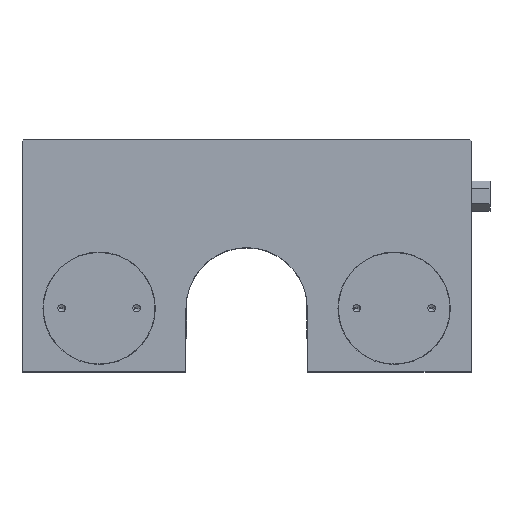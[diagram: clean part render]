
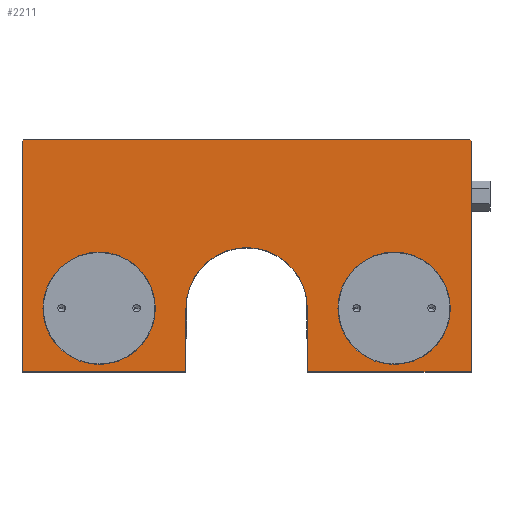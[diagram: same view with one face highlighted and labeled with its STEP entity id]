
A CAD part, top view. The second image highlights one B-rep face of the part: STEP entity #2211.
In plain terms, the highlighted planar face has unit normal (0, 0, 1).
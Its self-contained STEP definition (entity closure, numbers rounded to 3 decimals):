
#943 = EDGE_CURVE( '', #2277, #1903, #2686, .T. );
#965 = EDGE_CURVE( '', #1297, #2493, #2710, .T. );
#1079 = VERTEX_POINT( '', #2847 );
#1119 = EDGE_CURVE( '', #1295, #1079, #2888, .T. );
#1125 = EDGE_CURVE( '', #2157, #2015, #2896, .T. );
#1187 = VERTEX_POINT( '', #2962 );
#1229 = VERTEX_POINT( '', #3011 );
#1295 = VERTEX_POINT( '', #3084 );
#1297 = VERTEX_POINT( '', #3086 );
#1435 = EDGE_CURVE( '', #2177, #2281, #3244, .T. );
#1647 = EDGE_CURVE( '', #2493, #1297, #3480, .T. );
#1653 = EDGE_CURVE( '', #1187, #1295, #3486, .T. );
#1761 = EDGE_CURVE( '', #1903, #1229, #3607, .T. );
#1903 = VERTEX_POINT( '', #3768 );
#1913 = EDGE_CURVE( '', #1229, #2203, #3779, .T. );
#1923 = VERTEX_POINT( '', #3789 );
#1937 = EDGE_CURVE( '', #1079, #2157, #3805, .T. );
#2015 = VERTEX_POINT( '', #3889 );
#2157 = VERTEX_POINT( '', #4047 );
#2177 = VERTEX_POINT( '', #4070 );
#2203 = VERTEX_POINT( '', #4099 );
#2205 = EDGE_CURVE( '', #1923, #1187, #4101, .T. );
#2209 = EDGE_CURVE( '', #2203, #1923, #4105, .T. );
#2211 = ADVANCED_FACE( '', ( #4107, #4108, #4109 ), #4110, .F. );
#2227 = EDGE_CURVE( '', #2281, #2177, #4127, .T. );
#2277 = VERTEX_POINT( '', #4188 );
#2281 = VERTEX_POINT( '', #4192 );
#2493 = VERTEX_POINT( '', #4435 );
#2599 = EDGE_CURVE( '', #2015, #2277, #4552, .T. );
#2686 = LINE( '', #4651, #4652 );
#2710 = CIRCLE( '', #4717, 15. );
#2847 = CARTESIAN_POINT( '', ( 16.2, 17., 24.5 ) );
#2888 = LINE( '', #4960, #4961 );
#2896 = LINE( '', #4970, #4971 );
#2962 = CARTESIAN_POINT( '', ( 60., 0., 24.5 ) );
#3011 = CARTESIAN_POINT( '', ( -59.6, 62., 24.5 ) );
#3084 = CARTESIAN_POINT( '', ( 16.2, 0., 24.5 ) );
#3086 = CARTESIAN_POINT( '', ( -24.4, 17., 24.5 ) );
#3244 = CIRCLE( '', #5491, 15. );
#3480 = CIRCLE( '', #5823, 15. );
#3486 = LINE( '', #5834, #5835 );
#3607 = LINE( '', #6024, #6025 );
#3768 = CARTESIAN_POINT( '', ( -60., 61.6, 24.5 ) );
#3779 = LINE( '', #6258, #6259 );
#3789 = CARTESIAN_POINT( '', ( 60., 61.6, 24.5 ) );
#3805 = CIRCLE( '', #6298, 16.2 );
#3889 = CARTESIAN_POINT( '', ( -16.2, 0., 24.5 ) );
#4047 = CARTESIAN_POINT( '', ( -16.2, 17., 24.5 ) );
#4070 = CARTESIAN_POINT( '', ( 24.4, 17., 24.5 ) );
#4099 = CARTESIAN_POINT( '', ( 59.6, 62., 24.5 ) );
#4101 = LINE( '', #6682, #6683 );
#4105 = LINE( '', #6688, #6689 );
#4107 = FACE_BOUND( '', #6691, .T. );
#4108 = FACE_BOUND( '', #6692, .T. );
#4109 = FACE_OUTER_BOUND( '', #6693, .T. );
#4110 = PLANE( '', #6694 );
#4127 = CIRCLE( '', #6750, 15. );
#4188 = CARTESIAN_POINT( '', ( -60., 0., 24.5 ) );
#4192 = CARTESIAN_POINT( '', ( 54.4, 17., 24.5 ) );
#4435 = CARTESIAN_POINT( '', ( -54.4, 17., 24.5 ) );
#4552 = LINE( '', #7357, #7358 );
#4651 = CARTESIAN_POINT( '', ( -60., 0., 24.5 ) );
#4652 = VECTOR( '', #7449, 1. );
#4717 = AXIS2_PLACEMENT_3D( '', #7471, #7472, #7473 );
#4960 = CARTESIAN_POINT( '', ( 16.2, 0., 24.5 ) );
#4961 = VECTOR( '', #7681, 1. );
#4970 = CARTESIAN_POINT( '', ( -16.2, 17., 24.5 ) );
#4971 = VECTOR( '', #7698, 1. );
#5491 = AXIS2_PLACEMENT_3D( '', #8079, #8080, #8081 );
#5823 = AXIS2_PLACEMENT_3D( '', #8382, #8383, #8384 );
#5834 = CARTESIAN_POINT( '', ( 60., 0., 24.5 ) );
#5835 = VECTOR( '', #8387, 1. );
#6024 = CARTESIAN_POINT( '', ( -60., 61.6, 24.5 ) );
#6025 = VECTOR( '', #8524, 1. );
#6258 = CARTESIAN_POINT( '', ( -59.6, 62., 24.5 ) );
#6259 = VECTOR( '', #8729, 1. );
#6298 = AXIS2_PLACEMENT_3D( '', #8757, #8758, #8759 );
#6682 = CARTESIAN_POINT( '', ( 60., 61.6, 24.5 ) );
#6683 = VECTOR( '', #9063, 1. );
#6688 = CARTESIAN_POINT( '', ( 59.6, 62., 24.5 ) );
#6689 = VECTOR( '', #9064, 1. );
#6691 = EDGE_LOOP( '', ( #9066, #9067 ) );
#6692 = EDGE_LOOP( '', ( #9068, #9069 ) );
#6693 = EDGE_LOOP( '', ( #9070, #9071, #9072, #9073, #9074, #9075, #9076, #9077, #9078, #9079 ) );
#6694 = AXIS2_PLACEMENT_3D( '', #9080, #9081, #9082 );
#6750 = AXIS2_PLACEMENT_3D( '', #9098, #9099, #9100 );
#7357 = CARTESIAN_POINT( '', ( -16.2, 0., 24.5 ) );
#7358 = VECTOR( '', #9600, 1. );
#7449 = DIRECTION( '', ( 0., 1., 0. ) );
#7471 = CARTESIAN_POINT( '', ( -39.4, 17., 24.5 ) );
#7472 = DIRECTION( '', ( 0., 0., -1. ) );
#7473 = DIRECTION( '', ( -1., 0., 0. ) );
#7681 = DIRECTION( '', ( 0., 1., 0. ) );
#7698 = DIRECTION( '', ( 0., -1., 0. ) );
#8079 = CARTESIAN_POINT( '', ( 39.4, 17., 24.5 ) );
#8080 = DIRECTION( '', ( 0., 0., -1. ) );
#8081 = DIRECTION( '', ( -1., 0., 0. ) );
#8382 = CARTESIAN_POINT( '', ( -39.4, 17., 24.5 ) );
#8383 = DIRECTION( '', ( 0., 0., -1. ) );
#8384 = DIRECTION( '', ( -1., 0., 0. ) );
#8387 = DIRECTION( '', ( -1., 0., 0. ) );
#8524 = DIRECTION( '', ( 0.707, 0.707, 0. ) );
#8729 = DIRECTION( '', ( 1., 0., 0. ) );
#8757 = CARTESIAN_POINT( '', ( 0., 17., 24.5 ) );
#8758 = DIRECTION( '', ( 0., 0., 1. ) );
#8759 = DIRECTION( '', ( 1., 0., 0. ) );
#9063 = DIRECTION( '', ( 0., -1., 0. ) );
#9064 = DIRECTION( '', ( 0.707, -0.707, 0. ) );
#9066 = ORIENTED_EDGE( '', *, *, #965, .T. );
#9067 = ORIENTED_EDGE( '', *, *, #1647, .T. );
#9068 = ORIENTED_EDGE( '', *, *, #2227, .T. );
#9069 = ORIENTED_EDGE( '', *, *, #1435, .T. );
#9070 = ORIENTED_EDGE( '', *, *, #1653, .F. );
#9071 = ORIENTED_EDGE( '', *, *, #2205, .F. );
#9072 = ORIENTED_EDGE( '', *, *, #2209, .F. );
#9073 = ORIENTED_EDGE( '', *, *, #1913, .F. );
#9074 = ORIENTED_EDGE( '', *, *, #1761, .F. );
#9075 = ORIENTED_EDGE( '', *, *, #943, .F. );
#9076 = ORIENTED_EDGE( '', *, *, #2599, .F. );
#9077 = ORIENTED_EDGE( '', *, *, #1125, .F. );
#9078 = ORIENTED_EDGE( '', *, *, #1937, .F. );
#9079 = ORIENTED_EDGE( '', *, *, #1119, .F. );
#9080 = CARTESIAN_POINT( '', ( 0., 0., 24.5 ) );
#9081 = DIRECTION( '', ( 0., 0., -1. ) );
#9082 = DIRECTION( '', ( -1., 0., 0. ) );
#9098 = CARTESIAN_POINT( '', ( 39.4, 17., 24.5 ) );
#9099 = DIRECTION( '', ( 0., 0., -1. ) );
#9100 = DIRECTION( '', ( -1., 0., 0. ) );
#9600 = DIRECTION( '', ( -1., 0., 0. ) );
